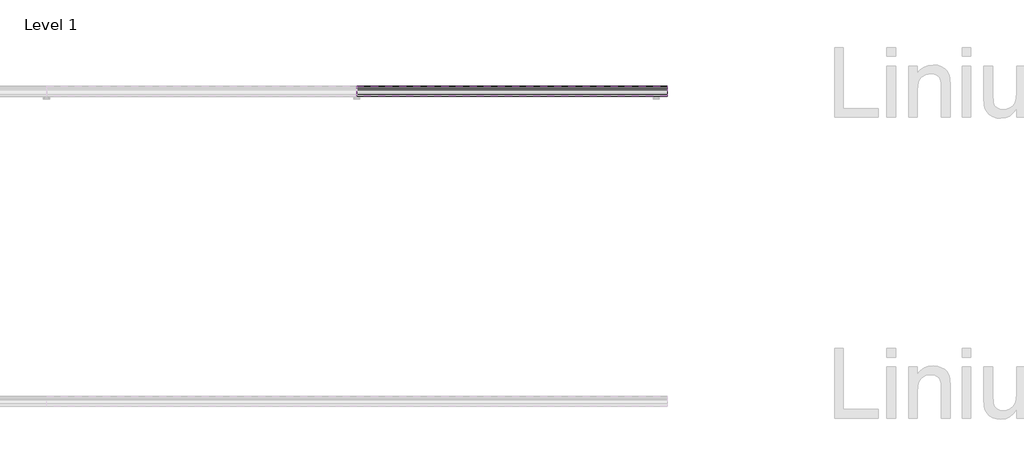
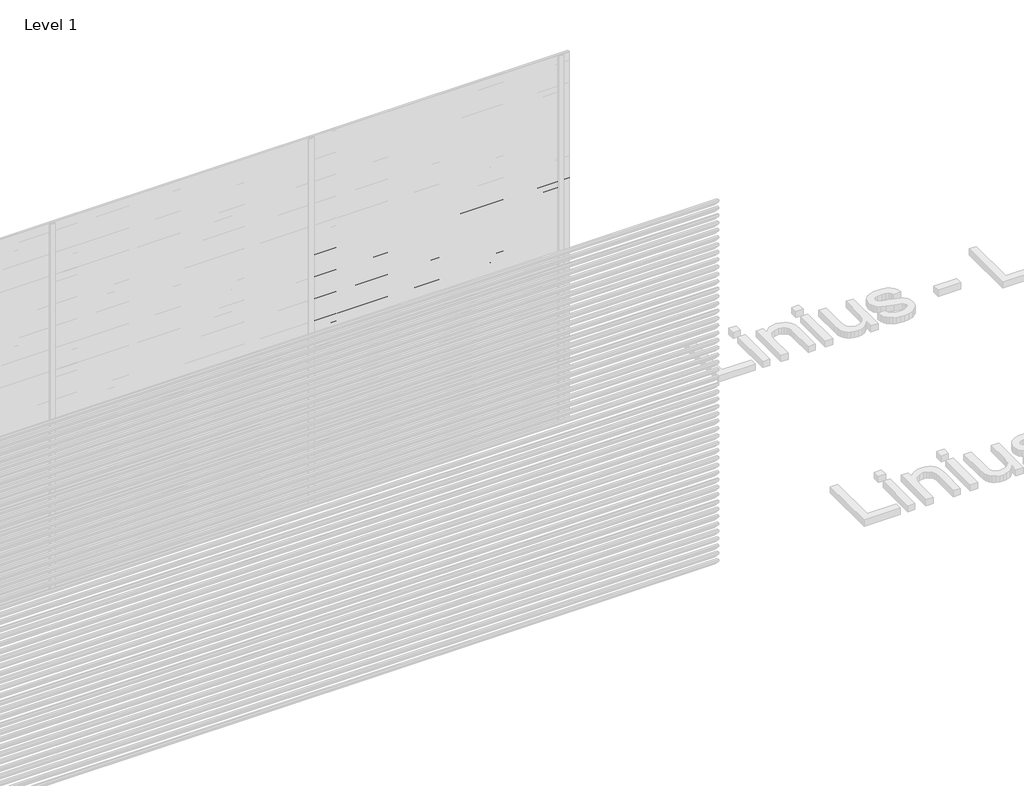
# One storey, part 105 of 153: 33 proxies.
"""IFC4 building model written with IfcOpenShell, lengths in millimetres."""

from ifc_helpers import new_model, si_unit, point, frame, frame_2d, origin, place, context, project, spatial, polyline, circle_curve, trimmed, segment, composite_curve, outline, extrude, element, save

model = new_model("IFC4")

# Units and contexts
model_context = context("Model", 3, world=origin())
ifc_project = project(units=[si_unit("LENGTHUNIT", "METRE", prefix="MILLI")], contexts=[model_context])

# Site, building, storey
site = spatial("IfcSite", under=ifc_project)
building = spatial("IfcBuilding", under=site)
storey = spatial("IfcBuildingStorey", under=building, Name="Level 1", Elevation=0.0)

# Proxies
placement = place(None, origin())
element("IfcBuildingElementProxy", 1, Name="Wall Sweeps", at=placement, inside=storey, context=model_context, shape_type="SweptSolid", body=[
    extrude(outline(composite_curve([segment(polyline([(43985.0540136, 2100.0), (43999.874191, 2098.7034025), (44049.0540136, 2045.0102749), (44049.0540136, 2033.6108187)]), True, "CONTINUOUS"), segment(trimmed(circle_curve(frame_2d((44045.7883652, 2033.897153)), 3.2781774), [point((44049.0540136, 2033.6108187))], [point((44046.4639442, 2030.6893438))], False, "CARTESIAN"), True, "CONTINUOUS"), segment(polyline([(44046.4639442, 2030.6893438), (44034.1895723, 2031.6282758), (43985.0540136, 2085.2730773), (43985.0540136, 2100.0)]), True, "CONTINUOUS")], self_intersect=False), holes=[composite_curve([segment(polyline([(43999.1621773, 2097.2599659), (43986.5540136, 2098.3630372), (43986.5540136, 2085.856213), (44034.8952036, 2033.0786805), (44046.3312542, 2032.2038762)]), True, "CONTINUOUS"), segment(trimmed(circle_curve(frame_2d((44045.7883652, 2033.897153)), 1.7781774), [point((44046.3312542, 2032.2038762))], [point((44047.5540136, 2033.6864389))], True, "CARTESIAN"), True, "CONTINUOUS"), segment(polyline([(44047.5540136, 2033.6864389), (44047.5540136, 2044.4271392), (43999.1621773, 2097.2599659)]), True, "CONTINUOUS")], self_intersect=False)]), frame((48966.6208096, 0.0, 0.0), z_axis=(1.0, 0.0, 0.0), x_axis=(0.0, 1.0, 0.0)), (0.0, 0.0, 1.0), 2000.0000001),
])
element("IfcBuildingElementProxy", 2, Name="Wall Sweeps", at=placement, inside=storey, context=model_context, shape_type="SweptSolid", body=[
    extrude(outline(composite_curve([segment(polyline([(43985.0540136, 2040.0), (43999.874191, 2038.7034025), (44049.0540136, 1985.0102749), (44049.0540136, 1973.6108187)]), True, "CONTINUOUS"), segment(trimmed(circle_curve(frame_2d((44045.7883652, 1973.897153)), 3.2781774), [point((44049.0540136, 1973.6108187))], [point((44046.4639442, 1970.6893438))], False, "CARTESIAN"), True, "CONTINUOUS"), segment(polyline([(44046.4639442, 1970.6893438), (44034.1895723, 1971.6282758), (43985.0540136, 2025.2730773), (43985.0540136, 2040.0)]), True, "CONTINUOUS")], self_intersect=False), holes=[composite_curve([segment(polyline([(43999.1621773, 2037.2599659), (43986.5540136, 2038.3630372), (43986.5540136, 2025.856213), (44034.8952036, 1973.0786805), (44046.3312542, 1972.2038762)]), True, "CONTINUOUS"), segment(trimmed(circle_curve(frame_2d((44045.7883652, 1973.897153)), 1.7781774), [point((44046.3312542, 1972.2038762))], [point((44047.5540136, 1973.6864389))], True, "CARTESIAN"), True, "CONTINUOUS"), segment(polyline([(44047.5540136, 1973.6864389), (44047.5540136, 1984.4271392), (43999.1621773, 2037.2599659)]), True, "CONTINUOUS")], self_intersect=False)]), frame((48966.6208096, 0.0, 0.0), z_axis=(1.0, 0.0, 0.0), x_axis=(0.0, 1.0, 0.0)), (0.0, 0.0, 1.0), 2000.0000001),
])
element("IfcBuildingElementProxy", 3, Name="Wall Sweeps", at=placement, inside=storey, context=model_context, shape_type="SweptSolid", body=[
    extrude(outline(composite_curve([segment(polyline([(43985.0540136, 1980.0), (43999.874191, 1978.7034025), (44049.0540136, 1925.0102749), (44049.0540136, 1913.6108187)]), True, "CONTINUOUS"), segment(trimmed(circle_curve(frame_2d((44045.7883652, 1913.897153)), 3.2781774), [point((44049.0540136, 1913.6108187))], [point((44046.4639442, 1910.6893438))], False, "CARTESIAN"), True, "CONTINUOUS"), segment(polyline([(44046.4639442, 1910.6893438), (44034.1895723, 1911.6282758), (43985.0540136, 1965.2730773), (43985.0540136, 1980.0)]), True, "CONTINUOUS")], self_intersect=False), holes=[composite_curve([segment(polyline([(43999.1621773, 1977.2599659), (43986.5540136, 1978.3630372), (43986.5540136, 1965.856213), (44034.8952036, 1913.0786805), (44046.3312542, 1912.2038762)]), True, "CONTINUOUS"), segment(trimmed(circle_curve(frame_2d((44045.7883652, 1913.897153)), 1.7781774), [point((44046.3312542, 1912.2038762))], [point((44047.5540136, 1913.6864389))], True, "CARTESIAN"), True, "CONTINUOUS"), segment(polyline([(44047.5540136, 1913.6864389), (44047.5540136, 1924.4271392), (43999.1621773, 1977.2599659)]), True, "CONTINUOUS")], self_intersect=False)]), frame((48966.6208096, 0.0, 0.0), z_axis=(1.0, 0.0, 0.0), x_axis=(0.0, 1.0, 0.0)), (0.0, 0.0, 1.0), 2000.0000001),
])
element("IfcBuildingElementProxy", 4, Name="Wall Sweeps", at=placement, inside=storey, context=model_context, shape_type="SweptSolid", body=[
    extrude(outline(composite_curve([segment(polyline([(43985.0540136, 1920.0), (43999.874191, 1918.7034025), (44049.0540136, 1865.0102749), (44049.0540136, 1853.6108187)]), True, "CONTINUOUS"), segment(trimmed(circle_curve(frame_2d((44045.7883652, 1853.897153)), 3.2781774), [point((44049.0540136, 1853.6108187))], [point((44046.4639442, 1850.6893438))], False, "CARTESIAN"), True, "CONTINUOUS"), segment(polyline([(44046.4639442, 1850.6893438), (44034.1895723, 1851.6282758), (43985.0540136, 1905.2730773), (43985.0540136, 1920.0)]), True, "CONTINUOUS")], self_intersect=False), holes=[composite_curve([segment(polyline([(43999.1621773, 1917.2599659), (43986.5540136, 1918.3630372), (43986.5540136, 1905.856213), (44034.8952036, 1853.0786805), (44046.3312542, 1852.2038762)]), True, "CONTINUOUS"), segment(trimmed(circle_curve(frame_2d((44045.7883652, 1853.897153)), 1.7781774), [point((44046.3312542, 1852.2038762))], [point((44047.5540136, 1853.6864389))], True, "CARTESIAN"), True, "CONTINUOUS"), segment(polyline([(44047.5540136, 1853.6864389), (44047.5540136, 1864.4271392), (43999.1621773, 1917.2599659)]), True, "CONTINUOUS")], self_intersect=False)]), frame((48966.6208096, 0.0, 0.0), z_axis=(1.0, 0.0, 0.0), x_axis=(0.0, 1.0, 0.0)), (0.0, 0.0, 1.0), 2000.0000001),
])
element("IfcBuildingElementProxy", 5, Name="Wall Sweeps", at=placement, inside=storey, context=model_context, shape_type="SweptSolid", body=[
    extrude(outline(composite_curve([segment(polyline([(43985.0540136, 1860.0), (43999.874191, 1858.7034025), (44049.0540136, 1805.0102749), (44049.0540136, 1793.6108187)]), True, "CONTINUOUS"), segment(trimmed(circle_curve(frame_2d((44045.7883652, 1793.897153)), 3.2781774), [point((44049.0540136, 1793.6108187))], [point((44046.4639442, 1790.6893438))], False, "CARTESIAN"), True, "CONTINUOUS"), segment(polyline([(44046.4639442, 1790.6893438), (44034.1895723, 1791.6282758), (43985.0540136, 1845.2730773), (43985.0540136, 1860.0)]), True, "CONTINUOUS")], self_intersect=False), holes=[composite_curve([segment(polyline([(43999.1621773, 1857.2599659), (43986.5540136, 1858.3630372), (43986.5540136, 1845.856213), (44034.8952036, 1793.0786805), (44046.3312542, 1792.2038762)]), True, "CONTINUOUS"), segment(trimmed(circle_curve(frame_2d((44045.7883652, 1793.897153)), 1.7781774), [point((44046.3312542, 1792.2038762))], [point((44047.5540136, 1793.6864389))], True, "CARTESIAN"), True, "CONTINUOUS"), segment(polyline([(44047.5540136, 1793.6864389), (44047.5540136, 1804.4271392), (43999.1621773, 1857.2599659)]), True, "CONTINUOUS")], self_intersect=False)]), frame((48966.6208096, 0.0, 0.0), z_axis=(1.0, 0.0, 0.0), x_axis=(0.0, 1.0, 0.0)), (0.0, 0.0, 1.0), 2000.0000001),
])
element("IfcBuildingElementProxy", 6, Name="Wall Sweeps", at=placement, inside=storey, context=model_context, shape_type="SweptSolid", body=[
    extrude(outline(composite_curve([segment(polyline([(43985.0540136, 1800.0), (43999.874191, 1798.7034025), (44049.0540136, 1745.0102749), (44049.0540136, 1733.6108187)]), True, "CONTINUOUS"), segment(trimmed(circle_curve(frame_2d((44045.7883652, 1733.897153)), 3.2781774), [point((44049.0540136, 1733.6108187))], [point((44046.4639442, 1730.6893438))], False, "CARTESIAN"), True, "CONTINUOUS"), segment(polyline([(44046.4639442, 1730.6893438), (44034.1895723, 1731.6282758), (43985.0540136, 1785.2730773), (43985.0540136, 1800.0)]), True, "CONTINUOUS")], self_intersect=False), holes=[composite_curve([segment(polyline([(43999.1621773, 1797.2599659), (43986.5540136, 1798.3630372), (43986.5540136, 1785.856213), (44034.8952036, 1733.0786805), (44046.3312542, 1732.2038762)]), True, "CONTINUOUS"), segment(trimmed(circle_curve(frame_2d((44045.7883652, 1733.897153)), 1.7781774), [point((44046.3312542, 1732.2038762))], [point((44047.5540136, 1733.6864389))], True, "CARTESIAN"), True, "CONTINUOUS"), segment(polyline([(44047.5540136, 1733.6864389), (44047.5540136, 1744.4271392), (43999.1621773, 1797.2599659)]), True, "CONTINUOUS")], self_intersect=False)]), frame((48966.6208096, 0.0, 0.0), z_axis=(1.0, 0.0, 0.0), x_axis=(0.0, 1.0, 0.0)), (0.0, 0.0, 1.0), 2000.0000001),
])
element("IfcBuildingElementProxy", 7, Name="Wall Sweeps", at=placement, inside=storey, context=model_context, shape_type="SweptSolid", body=[
    extrude(outline(composite_curve([segment(polyline([(43985.0540136, 1740.0), (43999.874191, 1738.7034025), (44049.0540136, 1685.0102749), (44049.0540136, 1673.6108187)]), True, "CONTINUOUS"), segment(trimmed(circle_curve(frame_2d((44045.7883652, 1673.897153)), 3.2781774), [point((44049.0540136, 1673.6108187))], [point((44046.4639442, 1670.6893438))], False, "CARTESIAN"), True, "CONTINUOUS"), segment(polyline([(44046.4639442, 1670.6893438), (44034.1895723, 1671.6282758), (43985.0540136, 1725.2730773), (43985.0540136, 1740.0)]), True, "CONTINUOUS")], self_intersect=False), holes=[composite_curve([segment(polyline([(43999.1621773, 1737.2599659), (43986.5540136, 1738.3630372), (43986.5540136, 1725.856213), (44034.8952036, 1673.0786805), (44046.3312542, 1672.2038762)]), True, "CONTINUOUS"), segment(trimmed(circle_curve(frame_2d((44045.7883652, 1673.897153)), 1.7781774), [point((44046.3312542, 1672.2038762))], [point((44047.5540136, 1673.6864389))], True, "CARTESIAN"), True, "CONTINUOUS"), segment(polyline([(44047.5540136, 1673.6864389), (44047.5540136, 1684.4271392), (43999.1621773, 1737.2599659)]), True, "CONTINUOUS")], self_intersect=False)]), frame((48966.6208096, 0.0, 0.0), z_axis=(1.0, 0.0, 0.0), x_axis=(0.0, 1.0, 0.0)), (0.0, 0.0, 1.0), 2000.0000001),
])
element("IfcBuildingElementProxy", 8, Name="Wall Sweeps", at=placement, inside=storey, context=model_context, shape_type="SweptSolid", body=[
    extrude(outline(composite_curve([segment(polyline([(43985.0540136, 1680.0), (43999.874191, 1678.7034025), (44049.0540136, 1625.0102749), (44049.0540136, 1613.6108187)]), True, "CONTINUOUS"), segment(trimmed(circle_curve(frame_2d((44045.7883652, 1613.897153)), 3.2781774), [point((44049.0540136, 1613.6108187))], [point((44046.4639442, 1610.6893438))], False, "CARTESIAN"), True, "CONTINUOUS"), segment(polyline([(44046.4639442, 1610.6893438), (44034.1895723, 1611.6282758), (43985.0540136, 1665.2730773), (43985.0540136, 1680.0)]), True, "CONTINUOUS")], self_intersect=False), holes=[composite_curve([segment(polyline([(43999.1621773, 1677.2599659), (43986.5540136, 1678.3630372), (43986.5540136, 1665.856213), (44034.8952036, 1613.0786805), (44046.3312542, 1612.2038762)]), True, "CONTINUOUS"), segment(trimmed(circle_curve(frame_2d((44045.7883652, 1613.897153)), 1.7781774), [point((44046.3312542, 1612.2038762))], [point((44047.5540136, 1613.6864389))], True, "CARTESIAN"), True, "CONTINUOUS"), segment(polyline([(44047.5540136, 1613.6864389), (44047.5540136, 1624.4271392), (43999.1621773, 1677.2599659)]), True, "CONTINUOUS")], self_intersect=False)]), frame((48966.6208096, 0.0, 0.0), z_axis=(1.0, 0.0, 0.0), x_axis=(0.0, 1.0, 0.0)), (0.0, 0.0, 1.0), 2000.0000001),
])
element("IfcBuildingElementProxy", 9, Name="Wall Sweeps", at=placement, inside=storey, context=model_context, shape_type="SweptSolid", body=[
    extrude(outline(composite_curve([segment(polyline([(43985.0540136, 1620.0), (43999.874191, 1618.7034025), (44049.0540136, 1565.0102749), (44049.0540136, 1553.6108187)]), True, "CONTINUOUS"), segment(trimmed(circle_curve(frame_2d((44045.7883652, 1553.897153)), 3.2781774), [point((44049.0540136, 1553.6108187))], [point((44046.4639442, 1550.6893438))], False, "CARTESIAN"), True, "CONTINUOUS"), segment(polyline([(44046.4639442, 1550.6893438), (44034.1895723, 1551.6282758), (43985.0540136, 1605.2730773), (43985.0540136, 1620.0)]), True, "CONTINUOUS")], self_intersect=False), holes=[composite_curve([segment(polyline([(43999.1621773, 1617.2599659), (43986.5540136, 1618.3630372), (43986.5540136, 1605.856213), (44034.8952036, 1553.0786805), (44046.3312542, 1552.2038762)]), True, "CONTINUOUS"), segment(trimmed(circle_curve(frame_2d((44045.7883652, 1553.897153)), 1.7781774), [point((44046.3312542, 1552.2038762))], [point((44047.5540136, 1553.6864389))], True, "CARTESIAN"), True, "CONTINUOUS"), segment(polyline([(44047.5540136, 1553.6864389), (44047.5540136, 1564.4271392), (43999.1621773, 1617.2599659)]), True, "CONTINUOUS")], self_intersect=False)]), frame((48966.6208096, 0.0, 0.0), z_axis=(1.0, 0.0, 0.0), x_axis=(0.0, 1.0, 0.0)), (0.0, 0.0, 1.0), 2000.0000001),
])
element("IfcBuildingElementProxy", 10, Name="Wall Sweeps", at=placement, inside=storey, context=model_context, shape_type="SweptSolid", body=[
    extrude(outline(composite_curve([segment(polyline([(43985.0540136, 1560.0), (43999.874191, 1558.7034025), (44049.0540136, 1505.0102749), (44049.0540136, 1493.6108187)]), True, "CONTINUOUS"), segment(trimmed(circle_curve(frame_2d((44045.7883652, 1493.897153)), 3.2781774), [point((44049.0540136, 1493.6108187))], [point((44046.4639442, 1490.6893438))], False, "CARTESIAN"), True, "CONTINUOUS"), segment(polyline([(44046.4639442, 1490.6893438), (44034.1895723, 1491.6282758), (43985.0540136, 1545.2730773), (43985.0540136, 1560.0)]), True, "CONTINUOUS")], self_intersect=False), holes=[composite_curve([segment(polyline([(43999.1621773, 1557.2599659), (43986.5540136, 1558.3630372), (43986.5540136, 1545.856213), (44034.8952036, 1493.0786805), (44046.3312542, 1492.2038762)]), True, "CONTINUOUS"), segment(trimmed(circle_curve(frame_2d((44045.7883652, 1493.897153)), 1.7781774), [point((44046.3312542, 1492.2038762))], [point((44047.5540136, 1493.6864389))], True, "CARTESIAN"), True, "CONTINUOUS"), segment(polyline([(44047.5540136, 1493.6864389), (44047.5540136, 1504.4271392), (43999.1621773, 1557.2599659)]), True, "CONTINUOUS")], self_intersect=False)]), frame((48966.6208096, 0.0, 0.0), z_axis=(1.0, 0.0, 0.0), x_axis=(0.0, 1.0, 0.0)), (0.0, 0.0, 1.0), 2000.0000001),
])
element("IfcBuildingElementProxy", 11, Name="Wall Sweeps", at=placement, inside=storey, context=model_context, shape_type="SweptSolid", body=[
    extrude(outline(composite_curve([segment(polyline([(43985.0540136, 1500.0), (43999.874191, 1498.7034025), (44049.0540136, 1445.0102749), (44049.0540136, 1433.6108187)]), True, "CONTINUOUS"), segment(trimmed(circle_curve(frame_2d((44045.7883652, 1433.897153)), 3.2781774), [point((44049.0540136, 1433.6108187))], [point((44046.4639442, 1430.6893438))], False, "CARTESIAN"), True, "CONTINUOUS"), segment(polyline([(44046.4639442, 1430.6893438), (44034.1895723, 1431.6282758), (43985.0540136, 1485.2730773), (43985.0540136, 1500.0)]), True, "CONTINUOUS")], self_intersect=False), holes=[composite_curve([segment(polyline([(43999.1621773, 1497.2599659), (43986.5540136, 1498.3630372), (43986.5540136, 1485.856213), (44034.8952036, 1433.0786805), (44046.3312542, 1432.2038762)]), True, "CONTINUOUS"), segment(trimmed(circle_curve(frame_2d((44045.7883652, 1433.897153)), 1.7781774), [point((44046.3312542, 1432.2038762))], [point((44047.5540136, 1433.6864389))], True, "CARTESIAN"), True, "CONTINUOUS"), segment(polyline([(44047.5540136, 1433.6864389), (44047.5540136, 1444.4271392), (43999.1621773, 1497.2599659)]), True, "CONTINUOUS")], self_intersect=False)]), frame((48966.6208096, 0.0, 0.0), z_axis=(1.0, 0.0, 0.0), x_axis=(0.0, 1.0, 0.0)), (0.0, 0.0, 1.0), 2000.0000001),
])
element("IfcBuildingElementProxy", 12, Name="Wall Sweeps", at=placement, inside=storey, context=model_context, shape_type="SweptSolid", body=[
    extrude(outline(composite_curve([segment(polyline([(43985.0540136, 1440.0), (43999.874191, 1438.7034025), (44049.0540136, 1385.0102749), (44049.0540136, 1373.6108187)]), True, "CONTINUOUS"), segment(trimmed(circle_curve(frame_2d((44045.7883652, 1373.897153)), 3.2781774), [point((44049.0540136, 1373.6108187))], [point((44046.4639442, 1370.6893438))], False, "CARTESIAN"), True, "CONTINUOUS"), segment(polyline([(44046.4639442, 1370.6893438), (44034.1895723, 1371.6282758), (43985.0540136, 1425.2730773), (43985.0540136, 1440.0)]), True, "CONTINUOUS")], self_intersect=False), holes=[composite_curve([segment(polyline([(43999.1621773, 1437.2599659), (43986.5540136, 1438.3630372), (43986.5540136, 1425.856213), (44034.8952036, 1373.0786805), (44046.3312542, 1372.2038762)]), True, "CONTINUOUS"), segment(trimmed(circle_curve(frame_2d((44045.7883652, 1373.897153)), 1.7781774), [point((44046.3312542, 1372.2038762))], [point((44047.5540136, 1373.6864389))], True, "CARTESIAN"), True, "CONTINUOUS"), segment(polyline([(44047.5540136, 1373.6864389), (44047.5540136, 1384.4271392), (43999.1621773, 1437.2599659)]), True, "CONTINUOUS")], self_intersect=False)]), frame((48966.6208096, 0.0, 0.0), z_axis=(1.0, 0.0, 0.0), x_axis=(0.0, 1.0, 0.0)), (0.0, 0.0, 1.0), 2000.0000001),
])
element("IfcBuildingElementProxy", 13, Name="Wall Sweeps", at=placement, inside=storey, context=model_context, shape_type="SweptSolid", body=[
    extrude(outline(composite_curve([segment(polyline([(43985.0540136, 1380.0), (43999.874191, 1378.7034025), (44049.0540136, 1325.0102749), (44049.0540136, 1313.6108187)]), True, "CONTINUOUS"), segment(trimmed(circle_curve(frame_2d((44045.7883652, 1313.897153)), 3.2781774), [point((44049.0540136, 1313.6108187))], [point((44046.4639442, 1310.6893438))], False, "CARTESIAN"), True, "CONTINUOUS"), segment(polyline([(44046.4639442, 1310.6893438), (44034.1895723, 1311.6282758), (43985.0540136, 1365.2730773), (43985.0540136, 1380.0)]), True, "CONTINUOUS")], self_intersect=False), holes=[composite_curve([segment(polyline([(43999.1621773, 1377.2599659), (43986.5540136, 1378.3630372), (43986.5540136, 1365.856213), (44034.8952036, 1313.0786805), (44046.3312542, 1312.2038762)]), True, "CONTINUOUS"), segment(trimmed(circle_curve(frame_2d((44045.7883652, 1313.897153)), 1.7781774), [point((44046.3312542, 1312.2038762))], [point((44047.5540136, 1313.6864389))], True, "CARTESIAN"), True, "CONTINUOUS"), segment(polyline([(44047.5540136, 1313.6864389), (44047.5540136, 1324.4271392), (43999.1621773, 1377.2599659)]), True, "CONTINUOUS")], self_intersect=False)]), frame((48966.6208096, 0.0, 0.0), z_axis=(1.0, 0.0, 0.0), x_axis=(0.0, 1.0, 0.0)), (0.0, 0.0, 1.0), 2000.0000001),
])
element("IfcBuildingElementProxy", 14, Name="Wall Sweeps", at=placement, inside=storey, context=model_context, shape_type="SweptSolid", body=[
    extrude(outline(composite_curve([segment(polyline([(43985.0540136, 1320.0), (43999.874191, 1318.7034025), (44049.0540136, 1265.0102749), (44049.0540136, 1253.6108187)]), True, "CONTINUOUS"), segment(trimmed(circle_curve(frame_2d((44045.7883652, 1253.897153)), 3.2781774), [point((44049.0540136, 1253.6108187))], [point((44046.4639442, 1250.6893438))], False, "CARTESIAN"), True, "CONTINUOUS"), segment(polyline([(44046.4639442, 1250.6893438), (44034.1895723, 1251.6282758), (43985.0540136, 1305.2730773), (43985.0540136, 1320.0)]), True, "CONTINUOUS")], self_intersect=False), holes=[composite_curve([segment(polyline([(43999.1621773, 1317.2599659), (43986.5540136, 1318.3630372), (43986.5540136, 1305.856213), (44034.8952036, 1253.0786805), (44046.3312542, 1252.2038762)]), True, "CONTINUOUS"), segment(trimmed(circle_curve(frame_2d((44045.7883652, 1253.897153)), 1.7781774), [point((44046.3312542, 1252.2038762))], [point((44047.5540136, 1253.6864389))], True, "CARTESIAN"), True, "CONTINUOUS"), segment(polyline([(44047.5540136, 1253.6864389), (44047.5540136, 1264.4271392), (43999.1621773, 1317.2599659)]), True, "CONTINUOUS")], self_intersect=False)]), frame((48966.6208096, 0.0, 0.0), z_axis=(1.0, 0.0, 0.0), x_axis=(0.0, 1.0, 0.0)), (0.0, 0.0, 1.0), 2000.0000001),
])
element("IfcBuildingElementProxy", 15, Name="Wall Sweeps", at=placement, inside=storey, context=model_context, shape_type="SweptSolid", body=[
    extrude(outline(composite_curve([segment(polyline([(43985.0540136, 1260.0), (43999.874191, 1258.7034025), (44049.0540136, 1205.0102749), (44049.0540136, 1193.6108187)]), True, "CONTINUOUS"), segment(trimmed(circle_curve(frame_2d((44045.7883652, 1193.897153)), 3.2781774), [point((44049.0540136, 1193.6108187))], [point((44046.4639442, 1190.6893438))], False, "CARTESIAN"), True, "CONTINUOUS"), segment(polyline([(44046.4639442, 1190.6893438), (44034.1895723, 1191.6282758), (43985.0540136, 1245.2730773), (43985.0540136, 1260.0)]), True, "CONTINUOUS")], self_intersect=False), holes=[composite_curve([segment(polyline([(43999.1621773, 1257.2599659), (43986.5540136, 1258.3630372), (43986.5540136, 1245.856213), (44034.8952036, 1193.0786805), (44046.3312542, 1192.2038762)]), True, "CONTINUOUS"), segment(trimmed(circle_curve(frame_2d((44045.7883652, 1193.897153)), 1.7781774), [point((44046.3312542, 1192.2038762))], [point((44047.5540136, 1193.6864389))], True, "CARTESIAN"), True, "CONTINUOUS"), segment(polyline([(44047.5540136, 1193.6864389), (44047.5540136, 1204.4271392), (43999.1621773, 1257.2599659)]), True, "CONTINUOUS")], self_intersect=False)]), frame((48966.6208096, 0.0, 0.0), z_axis=(1.0, 0.0, 0.0), x_axis=(0.0, 1.0, 0.0)), (0.0, 0.0, 1.0), 2000.0000001),
])
element("IfcBuildingElementProxy", 16, Name="Wall Sweeps", at=placement, inside=storey, context=model_context, shape_type="SweptSolid", body=[
    extrude(outline(composite_curve([segment(polyline([(43985.0540136, 1200.0), (43999.874191, 1198.7034025), (44049.0540136, 1145.0102749), (44049.0540136, 1133.6108187)]), True, "CONTINUOUS"), segment(trimmed(circle_curve(frame_2d((44045.7883652, 1133.897153)), 3.2781774), [point((44049.0540136, 1133.6108187))], [point((44046.4639442, 1130.6893438))], False, "CARTESIAN"), True, "CONTINUOUS"), segment(polyline([(44046.4639442, 1130.6893438), (44034.1895723, 1131.6282758), (43985.0540136, 1185.2730773), (43985.0540136, 1200.0)]), True, "CONTINUOUS")], self_intersect=False), holes=[composite_curve([segment(polyline([(43999.1621773, 1197.2599659), (43986.5540136, 1198.3630372), (43986.5540136, 1185.856213), (44034.8952036, 1133.0786805), (44046.3312542, 1132.2038762)]), True, "CONTINUOUS"), segment(trimmed(circle_curve(frame_2d((44045.7883652, 1133.897153)), 1.7781774), [point((44046.3312542, 1132.2038762))], [point((44047.5540136, 1133.6864389))], True, "CARTESIAN"), True, "CONTINUOUS"), segment(polyline([(44047.5540136, 1133.6864389), (44047.5540136, 1144.4271392), (43999.1621773, 1197.2599659)]), True, "CONTINUOUS")], self_intersect=False)]), frame((48966.6208096, 0.0, 0.0), z_axis=(1.0, 0.0, 0.0), x_axis=(0.0, 1.0, 0.0)), (0.0, 0.0, 1.0), 2000.0000001),
])
element("IfcBuildingElementProxy", 17, Name="Wall Sweeps", at=placement, inside=storey, context=model_context, shape_type="SweptSolid", body=[
    extrude(outline(composite_curve([segment(polyline([(43985.0540136, 1140.0), (43999.874191, 1138.7034025), (44049.0540136, 1085.0102749), (44049.0540136, 1073.6108187)]), True, "CONTINUOUS"), segment(trimmed(circle_curve(frame_2d((44045.7883652, 1073.897153)), 3.2781774), [point((44049.0540136, 1073.6108187))], [point((44046.4639442, 1070.6893438))], False, "CARTESIAN"), True, "CONTINUOUS"), segment(polyline([(44046.4639442, 1070.6893438), (44034.1895723, 1071.6282758), (43985.0540136, 1125.2730773), (43985.0540136, 1140.0)]), True, "CONTINUOUS")], self_intersect=False), holes=[composite_curve([segment(polyline([(43999.1621773, 1137.2599659), (43986.5540136, 1138.3630372), (43986.5540136, 1125.856213), (44034.8952036, 1073.0786805), (44046.3312542, 1072.2038762)]), True, "CONTINUOUS"), segment(trimmed(circle_curve(frame_2d((44045.7883652, 1073.897153)), 1.7781774), [point((44046.3312542, 1072.2038762))], [point((44047.5540136, 1073.6864389))], True, "CARTESIAN"), True, "CONTINUOUS"), segment(polyline([(44047.5540136, 1073.6864389), (44047.5540136, 1084.4271392), (43999.1621773, 1137.2599659)]), True, "CONTINUOUS")], self_intersect=False)]), frame((48966.6208096, 0.0, 0.0), z_axis=(1.0, 0.0, 0.0), x_axis=(0.0, 1.0, 0.0)), (0.0, 0.0, 1.0), 2000.0000001),
])
element("IfcBuildingElementProxy", 18, Name="Wall Sweeps", at=placement, inside=storey, context=model_context, shape_type="SweptSolid", body=[
    extrude(outline(composite_curve([segment(polyline([(43985.0540136, 1080.0), (43999.874191, 1078.7034025), (44049.0540136, 1025.0102749), (44049.0540136, 1013.6108187)]), True, "CONTINUOUS"), segment(trimmed(circle_curve(frame_2d((44045.7883652, 1013.897153)), 3.2781774), [point((44049.0540136, 1013.6108187))], [point((44046.4639442, 1010.6893438))], False, "CARTESIAN"), True, "CONTINUOUS"), segment(polyline([(44046.4639442, 1010.6893438), (44034.1895723, 1011.6282758), (43985.0540136, 1065.2730773), (43985.0540136, 1080.0)]), True, "CONTINUOUS")], self_intersect=False), holes=[composite_curve([segment(polyline([(43999.1621773, 1077.2599659), (43986.5540136, 1078.3630372), (43986.5540136, 1065.856213), (44034.8952036, 1013.0786805), (44046.3312542, 1012.2038762)]), True, "CONTINUOUS"), segment(trimmed(circle_curve(frame_2d((44045.7883652, 1013.897153)), 1.7781774), [point((44046.3312542, 1012.2038762))], [point((44047.5540136, 1013.6864389))], True, "CARTESIAN"), True, "CONTINUOUS"), segment(polyline([(44047.5540136, 1013.6864389), (44047.5540136, 1024.4271392), (43999.1621773, 1077.2599659)]), True, "CONTINUOUS")], self_intersect=False)]), frame((48966.6208096, 0.0, 0.0), z_axis=(1.0, 0.0, 0.0), x_axis=(0.0, 1.0, 0.0)), (0.0, 0.0, 1.0), 2000.0000001),
])
element("IfcBuildingElementProxy", 19, Name="Wall Sweeps", at=placement, inside=storey, context=model_context, shape_type="SweptSolid", body=[
    extrude(outline(composite_curve([segment(polyline([(43985.0540136, 1020.0), (43999.874191, 1018.7034025), (44049.0540136, 965.0102749), (44049.0540136, 953.6108187)]), True, "CONTINUOUS"), segment(trimmed(circle_curve(frame_2d((44045.7883652, 953.897153)), 3.2781774), [point((44049.0540136, 953.6108187))], [point((44046.4639442, 950.6893438))], False, "CARTESIAN"), True, "CONTINUOUS"), segment(polyline([(44046.4639442, 950.6893438), (44034.1895723, 951.6282758), (43985.0540136, 1005.2730773), (43985.0540136, 1020.0)]), True, "CONTINUOUS")], self_intersect=False), holes=[composite_curve([segment(polyline([(43999.1621773, 1017.2599659), (43986.5540136, 1018.3630372), (43986.5540136, 1005.856213), (44034.8952036, 953.0786805), (44046.3312542, 952.2038762)]), True, "CONTINUOUS"), segment(trimmed(circle_curve(frame_2d((44045.7883652, 953.897153)), 1.7781774), [point((44046.3312542, 952.2038762))], [point((44047.5540136, 953.6864389))], True, "CARTESIAN"), True, "CONTINUOUS"), segment(polyline([(44047.5540136, 953.6864389), (44047.5540136, 964.4271392), (43999.1621773, 1017.2599659)]), True, "CONTINUOUS")], self_intersect=False)]), frame((48966.6208096, 0.0, 0.0), z_axis=(1.0, 0.0, 0.0), x_axis=(0.0, 1.0, 0.0)), (0.0, 0.0, 1.0), 2000.0000001),
])
element("IfcBuildingElementProxy", 20, Name="Wall Sweeps", at=placement, inside=storey, context=model_context, shape_type="SweptSolid", body=[
    extrude(outline(composite_curve([segment(polyline([(43985.0540136, 960.0), (43999.874191, 958.7034025), (44049.0540136, 905.0102749), (44049.0540136, 893.6108187)]), True, "CONTINUOUS"), segment(trimmed(circle_curve(frame_2d((44045.7883652, 893.897153)), 3.2781774), [point((44049.0540136, 893.6108187))], [point((44046.4639442, 890.6893438))], False, "CARTESIAN"), True, "CONTINUOUS"), segment(polyline([(44046.4639442, 890.6893438), (44034.1895723, 891.6282758), (43985.0540136, 945.2730773), (43985.0540136, 960.0)]), True, "CONTINUOUS")], self_intersect=False), holes=[composite_curve([segment(polyline([(43999.1621773, 957.2599659), (43986.5540136, 958.3630372), (43986.5540136, 945.856213), (44034.8952036, 893.0786805), (44046.3312542, 892.2038762)]), True, "CONTINUOUS"), segment(trimmed(circle_curve(frame_2d((44045.7883652, 893.897153)), 1.7781774), [point((44046.3312542, 892.2038762))], [point((44047.5540136, 893.6864389))], True, "CARTESIAN"), True, "CONTINUOUS"), segment(polyline([(44047.5540136, 893.6864389), (44047.5540136, 904.4271392), (43999.1621773, 957.2599659)]), True, "CONTINUOUS")], self_intersect=False)]), frame((48966.6208096, 0.0, 0.0), z_axis=(1.0, 0.0, 0.0), x_axis=(0.0, 1.0, 0.0)), (0.0, 0.0, 1.0), 2000.0000001),
])
element("IfcBuildingElementProxy", 21, Name="Wall Sweeps", at=placement, inside=storey, context=model_context, shape_type="SweptSolid", body=[
    extrude(outline(composite_curve([segment(polyline([(43985.0540136, 900.0), (43999.874191, 898.7034025), (44049.0540136, 845.0102749), (44049.0540136, 833.6108187)]), True, "CONTINUOUS"), segment(trimmed(circle_curve(frame_2d((44045.7883652, 833.897153)), 3.2781774), [point((44049.0540136, 833.6108187))], [point((44046.4639442, 830.6893438))], False, "CARTESIAN"), True, "CONTINUOUS"), segment(polyline([(44046.4639442, 830.6893438), (44034.1895723, 831.6282758), (43985.0540136, 885.2730773), (43985.0540136, 900.0)]), True, "CONTINUOUS")], self_intersect=False), holes=[composite_curve([segment(polyline([(43999.1621773, 897.2599659), (43986.5540136, 898.3630372), (43986.5540136, 885.856213), (44034.8952036, 833.0786805), (44046.3312542, 832.2038762)]), True, "CONTINUOUS"), segment(trimmed(circle_curve(frame_2d((44045.7883652, 833.897153)), 1.7781774), [point((44046.3312542, 832.2038762))], [point((44047.5540136, 833.6864389))], True, "CARTESIAN"), True, "CONTINUOUS"), segment(polyline([(44047.5540136, 833.6864389), (44047.5540136, 844.4271392), (43999.1621773, 897.2599659)]), True, "CONTINUOUS")], self_intersect=False)]), frame((48966.6208096, 0.0, 0.0), z_axis=(1.0, 0.0, 0.0), x_axis=(0.0, 1.0, 0.0)), (0.0, 0.0, 1.0), 2000.0000001),
])
element("IfcBuildingElementProxy", 22, Name="Wall Sweeps", at=placement, inside=storey, context=model_context, shape_type="SweptSolid", body=[
    extrude(outline(composite_curve([segment(polyline([(43985.0540136, 840.0), (43999.874191, 838.7034025), (44049.0540136, 785.0102749), (44049.0540136, 773.6108187)]), True, "CONTINUOUS"), segment(trimmed(circle_curve(frame_2d((44045.7883652, 773.897153)), 3.2781774), [point((44049.0540136, 773.6108187))], [point((44046.4639442, 770.6893438))], False, "CARTESIAN"), True, "CONTINUOUS"), segment(polyline([(44046.4639442, 770.6893438), (44034.1895723, 771.6282758), (43985.0540136, 825.2730773), (43985.0540136, 840.0)]), True, "CONTINUOUS")], self_intersect=False), holes=[composite_curve([segment(polyline([(43999.1621773, 837.2599659), (43986.5540136, 838.3630372), (43986.5540136, 825.856213), (44034.8952036, 773.0786805), (44046.3312542, 772.2038762)]), True, "CONTINUOUS"), segment(trimmed(circle_curve(frame_2d((44045.7883652, 773.897153)), 1.7781774), [point((44046.3312542, 772.2038762))], [point((44047.5540136, 773.6864389))], True, "CARTESIAN"), True, "CONTINUOUS"), segment(polyline([(44047.5540136, 773.6864389), (44047.5540136, 784.4271392), (43999.1621773, 837.2599659)]), True, "CONTINUOUS")], self_intersect=False)]), frame((48966.6208096, 0.0, 0.0), z_axis=(1.0, 0.0, 0.0), x_axis=(0.0, 1.0, 0.0)), (0.0, 0.0, 1.0), 2000.0000001),
])
element("IfcBuildingElementProxy", 23, Name="Wall Sweeps", at=placement, inside=storey, context=model_context, shape_type="SweptSolid", body=[
    extrude(outline(composite_curve([segment(polyline([(43985.0540136, 780.0), (43999.874191, 778.7034025), (44049.0540136, 725.0102749), (44049.0540136, 713.6108187)]), True, "CONTINUOUS"), segment(trimmed(circle_curve(frame_2d((44045.7883652, 713.897153)), 3.2781774), [point((44049.0540136, 713.6108187))], [point((44046.4639442, 710.6893438))], False, "CARTESIAN"), True, "CONTINUOUS"), segment(polyline([(44046.4639442, 710.6893438), (44034.1895723, 711.6282758), (43985.0540136, 765.2730773), (43985.0540136, 780.0)]), True, "CONTINUOUS")], self_intersect=False), holes=[composite_curve([segment(polyline([(43999.1621773, 777.2599659), (43986.5540136, 778.3630372), (43986.5540136, 765.856213), (44034.8952036, 713.0786805), (44046.3312542, 712.2038762)]), True, "CONTINUOUS"), segment(trimmed(circle_curve(frame_2d((44045.7883652, 713.897153)), 1.7781774), [point((44046.3312542, 712.2038762))], [point((44047.5540136, 713.6864389))], True, "CARTESIAN"), True, "CONTINUOUS"), segment(polyline([(44047.5540136, 713.6864389), (44047.5540136, 724.4271392), (43999.1621773, 777.2599659)]), True, "CONTINUOUS")], self_intersect=False)]), frame((48966.6208096, 0.0, 0.0), z_axis=(1.0, 0.0, 0.0), x_axis=(0.0, 1.0, 0.0)), (0.0, 0.0, 1.0), 2000.0000001),
])
element("IfcBuildingElementProxy", 24, Name="Wall Sweeps", at=placement, inside=storey, context=model_context, shape_type="SweptSolid", body=[
    extrude(outline(composite_curve([segment(polyline([(43985.0540136, 720.0), (43999.874191, 718.7034025), (44049.0540136, 665.0102749), (44049.0540136, 653.6108187)]), True, "CONTINUOUS"), segment(trimmed(circle_curve(frame_2d((44045.7883652, 653.897153)), 3.2781774), [point((44049.0540136, 653.6108187))], [point((44046.4639442, 650.6893438))], False, "CARTESIAN"), True, "CONTINUOUS"), segment(polyline([(44046.4639442, 650.6893438), (44034.1895723, 651.6282758), (43985.0540136, 705.2730773), (43985.0540136, 720.0)]), True, "CONTINUOUS")], self_intersect=False), holes=[composite_curve([segment(polyline([(43999.1621773, 717.2599659), (43986.5540136, 718.3630372), (43986.5540136, 705.856213), (44034.8952036, 653.0786805), (44046.3312542, 652.2038762)]), True, "CONTINUOUS"), segment(trimmed(circle_curve(frame_2d((44045.7883652, 653.897153)), 1.7781774), [point((44046.3312542, 652.2038762))], [point((44047.5540136, 653.6864389))], True, "CARTESIAN"), True, "CONTINUOUS"), segment(polyline([(44047.5540136, 653.6864389), (44047.5540136, 664.4271392), (43999.1621773, 717.2599659)]), True, "CONTINUOUS")], self_intersect=False)]), frame((48966.6208096, 0.0, 0.0), z_axis=(1.0, 0.0, 0.0), x_axis=(0.0, 1.0, 0.0)), (0.0, 0.0, 1.0), 2000.0000001),
])
element("IfcBuildingElementProxy", 25, Name="Wall Sweeps", at=placement, inside=storey, context=model_context, shape_type="SweptSolid", body=[
    extrude(outline(composite_curve([segment(polyline([(43985.0540136, 660.0), (43999.874191, 658.7034025), (44049.0540136, 605.0102749), (44049.0540136, 593.6108187)]), True, "CONTINUOUS"), segment(trimmed(circle_curve(frame_2d((44045.7883652, 593.897153)), 3.2781774), [point((44049.0540136, 593.6108187))], [point((44046.4639442, 590.6893438))], False, "CARTESIAN"), True, "CONTINUOUS"), segment(polyline([(44046.4639442, 590.6893438), (44034.1895723, 591.6282758), (43985.0540136, 645.2730773), (43985.0540136, 660.0)]), True, "CONTINUOUS")], self_intersect=False), holes=[composite_curve([segment(polyline([(43999.1621773, 657.2599659), (43986.5540136, 658.3630372), (43986.5540136, 645.856213), (44034.8952036, 593.0786805), (44046.3312542, 592.2038762)]), True, "CONTINUOUS"), segment(trimmed(circle_curve(frame_2d((44045.7883652, 593.897153)), 1.7781774), [point((44046.3312542, 592.2038762))], [point((44047.5540136, 593.6864389))], True, "CARTESIAN"), True, "CONTINUOUS"), segment(polyline([(44047.5540136, 593.6864389), (44047.5540136, 604.4271392), (43999.1621773, 657.2599659)]), True, "CONTINUOUS")], self_intersect=False)]), frame((48966.6208096, 0.0, 0.0), z_axis=(1.0, 0.0, 0.0), x_axis=(0.0, 1.0, 0.0)), (0.0, 0.0, 1.0), 2000.0000001),
])
element("IfcBuildingElementProxy", 26, Name="Wall Sweeps", at=placement, inside=storey, context=model_context, shape_type="SweptSolid", body=[
    extrude(outline(composite_curve([segment(polyline([(43985.0540136, 600.0), (43999.874191, 598.7034025), (44049.0540136, 545.0102749), (44049.0540136, 533.6108187)]), True, "CONTINUOUS"), segment(trimmed(circle_curve(frame_2d((44045.7883652, 533.897153)), 3.2781774), [point((44049.0540136, 533.6108187))], [point((44046.4639442, 530.6893438))], False, "CARTESIAN"), True, "CONTINUOUS"), segment(polyline([(44046.4639442, 530.6893438), (44034.1895723, 531.6282758), (43985.0540136, 585.2730773), (43985.0540136, 600.0)]), True, "CONTINUOUS")], self_intersect=False), holes=[composite_curve([segment(polyline([(43999.1621773, 597.2599659), (43986.5540136, 598.3630372), (43986.5540136, 585.856213), (44034.8952036, 533.0786805), (44046.3312542, 532.2038762)]), True, "CONTINUOUS"), segment(trimmed(circle_curve(frame_2d((44045.7883652, 533.897153)), 1.7781774), [point((44046.3312542, 532.2038762))], [point((44047.5540136, 533.6864389))], True, "CARTESIAN"), True, "CONTINUOUS"), segment(polyline([(44047.5540136, 533.6864389), (44047.5540136, 544.4271392), (43999.1621773, 597.2599659)]), True, "CONTINUOUS")], self_intersect=False)]), frame((48966.6208096, 0.0, 0.0), z_axis=(1.0, 0.0, 0.0), x_axis=(0.0, 1.0, 0.0)), (0.0, 0.0, 1.0), 2000.0000001),
])
element("IfcBuildingElementProxy", 27, Name="Wall Sweeps", at=placement, inside=storey, context=model_context, shape_type="SweptSolid", body=[
    extrude(outline(composite_curve([segment(polyline([(43985.0540136, 540.0), (43999.874191, 538.7034025), (44049.0540136, 485.0102749), (44049.0540136, 473.6108187)]), True, "CONTINUOUS"), segment(trimmed(circle_curve(frame_2d((44045.7883652, 473.897153)), 3.2781774), [point((44049.0540136, 473.6108187))], [point((44046.4639442, 470.6893438))], False, "CARTESIAN"), True, "CONTINUOUS"), segment(polyline([(44046.4639442, 470.6893438), (44034.1895723, 471.6282758), (43985.0540136, 525.2730773), (43985.0540136, 540.0)]), True, "CONTINUOUS")], self_intersect=False), holes=[composite_curve([segment(polyline([(43999.1621773, 537.2599659), (43986.5540136, 538.3630372), (43986.5540136, 525.856213), (44034.8952036, 473.0786805), (44046.3312542, 472.2038762)]), True, "CONTINUOUS"), segment(trimmed(circle_curve(frame_2d((44045.7883652, 473.897153)), 1.7781774), [point((44046.3312542, 472.2038762))], [point((44047.5540136, 473.6864389))], True, "CARTESIAN"), True, "CONTINUOUS"), segment(polyline([(44047.5540136, 473.6864389), (44047.5540136, 484.4271392), (43999.1621773, 537.2599659)]), True, "CONTINUOUS")], self_intersect=False)]), frame((48966.6208096, 0.0, 0.0), z_axis=(1.0, 0.0, 0.0), x_axis=(0.0, 1.0, 0.0)), (0.0, 0.0, 1.0), 2000.0000001),
])
element("IfcBuildingElementProxy", 28, Name="Wall Sweeps", at=placement, inside=storey, context=model_context, shape_type="SweptSolid", body=[
    extrude(outline(composite_curve([segment(polyline([(43985.0540136, 480.0), (43999.874191, 478.7034025), (44049.0540136, 425.0102749), (44049.0540136, 413.6108187)]), True, "CONTINUOUS"), segment(trimmed(circle_curve(frame_2d((44045.7883652, 413.897153)), 3.2781774), [point((44049.0540136, 413.6108187))], [point((44046.4639442, 410.6893438))], False, "CARTESIAN"), True, "CONTINUOUS"), segment(polyline([(44046.4639442, 410.6893438), (44034.1895723, 411.6282758), (43985.0540136, 465.2730773), (43985.0540136, 480.0)]), True, "CONTINUOUS")], self_intersect=False), holes=[composite_curve([segment(polyline([(43999.1621773, 477.2599659), (43986.5540136, 478.3630372), (43986.5540136, 465.856213), (44034.8952036, 413.0786805), (44046.3312542, 412.2038762)]), True, "CONTINUOUS"), segment(trimmed(circle_curve(frame_2d((44045.7883652, 413.897153)), 1.7781774), [point((44046.3312542, 412.2038762))], [point((44047.5540136, 413.6864389))], True, "CARTESIAN"), True, "CONTINUOUS"), segment(polyline([(44047.5540136, 413.6864389), (44047.5540136, 424.4271392), (43999.1621773, 477.2599659)]), True, "CONTINUOUS")], self_intersect=False)]), frame((48966.6208096, 0.0, 0.0), z_axis=(1.0, 0.0, 0.0), x_axis=(0.0, 1.0, 0.0)), (0.0, 0.0, 1.0), 2000.0000001),
])
element("IfcBuildingElementProxy", 29, Name="Wall Sweeps", at=placement, inside=storey, context=model_context, shape_type="SweptSolid", body=[
    extrude(outline(composite_curve([segment(polyline([(43985.0540136, 420.0), (43999.874191, 418.7034025), (44049.0540136, 365.0102749), (44049.0540136, 353.6108187)]), True, "CONTINUOUS"), segment(trimmed(circle_curve(frame_2d((44045.7883652, 353.897153)), 3.2781774), [point((44049.0540136, 353.6108187))], [point((44046.4639442, 350.6893438))], False, "CARTESIAN"), True, "CONTINUOUS"), segment(polyline([(44046.4639442, 350.6893438), (44034.1895723, 351.6282758), (43985.0540136, 405.2730773), (43985.0540136, 420.0)]), True, "CONTINUOUS")], self_intersect=False), holes=[composite_curve([segment(polyline([(43999.1621773, 417.2599659), (43986.5540136, 418.3630372), (43986.5540136, 405.856213), (44034.8952036, 353.0786805), (44046.3312542, 352.2038762)]), True, "CONTINUOUS"), segment(trimmed(circle_curve(frame_2d((44045.7883652, 353.897153)), 1.7781774), [point((44046.3312542, 352.2038762))], [point((44047.5540136, 353.6864389))], True, "CARTESIAN"), True, "CONTINUOUS"), segment(polyline([(44047.5540136, 353.6864389), (44047.5540136, 364.4271392), (43999.1621773, 417.2599659)]), True, "CONTINUOUS")], self_intersect=False)]), frame((48966.6208096, 0.0, 0.0), z_axis=(1.0, 0.0, 0.0), x_axis=(0.0, 1.0, 0.0)), (0.0, 0.0, 1.0), 2000.0000001),
])
element("IfcBuildingElementProxy", 30, Name="Wall Sweeps", at=placement, inside=storey, context=model_context, shape_type="SweptSolid", body=[
    extrude(outline(composite_curve([segment(polyline([(43985.0540136, 360.0), (43999.874191, 358.7034025), (44049.0540136, 305.0102749), (44049.0540136, 293.6108187)]), True, "CONTINUOUS"), segment(trimmed(circle_curve(frame_2d((44045.7883652, 293.897153)), 3.2781774), [point((44049.0540136, 293.6108187))], [point((44046.4639442, 290.6893438))], False, "CARTESIAN"), True, "CONTINUOUS"), segment(polyline([(44046.4639442, 290.6893438), (44034.1895723, 291.6282758), (43985.0540136, 345.2730773), (43985.0540136, 360.0)]), True, "CONTINUOUS")], self_intersect=False), holes=[composite_curve([segment(polyline([(43999.1621773, 357.2599659), (43986.5540136, 358.3630372), (43986.5540136, 345.856213), (44034.8952036, 293.0786805), (44046.3312542, 292.2038762)]), True, "CONTINUOUS"), segment(trimmed(circle_curve(frame_2d((44045.7883652, 293.897153)), 1.7781774), [point((44046.3312542, 292.2038762))], [point((44047.5540136, 293.6864389))], True, "CARTESIAN"), True, "CONTINUOUS"), segment(polyline([(44047.5540136, 293.6864389), (44047.5540136, 304.4271392), (43999.1621773, 357.2599659)]), True, "CONTINUOUS")], self_intersect=False)]), frame((48966.6208096, 0.0, 0.0), z_axis=(1.0, 0.0, 0.0), x_axis=(0.0, 1.0, 0.0)), (0.0, 0.0, 1.0), 2000.0000001),
])
element("IfcBuildingElementProxy", 31, Name="Wall Sweeps", at=placement, inside=storey, context=model_context, shape_type="SweptSolid", body=[
    extrude(outline(composite_curve([segment(polyline([(43985.0540136, 300.0), (43999.874191, 298.7034025), (44049.0540136, 245.0102749), (44049.0540136, 233.6108187)]), True, "CONTINUOUS"), segment(trimmed(circle_curve(frame_2d((44045.7883652, 233.897153)), 3.2781774), [point((44049.0540136, 233.6108187))], [point((44046.4639442, 230.6893438))], False, "CARTESIAN"), True, "CONTINUOUS"), segment(polyline([(44046.4639442, 230.6893438), (44034.1895723, 231.6282758), (43985.0540136, 285.2730773), (43985.0540136, 300.0)]), True, "CONTINUOUS")], self_intersect=False), holes=[composite_curve([segment(polyline([(43999.1621773, 297.2599659), (43986.5540136, 298.3630372), (43986.5540136, 285.856213), (44034.8952036, 233.0786805), (44046.3312542, 232.2038762)]), True, "CONTINUOUS"), segment(trimmed(circle_curve(frame_2d((44045.7883652, 233.897153)), 1.7781774), [point((44046.3312542, 232.2038762))], [point((44047.5540136, 233.6864389))], True, "CARTESIAN"), True, "CONTINUOUS"), segment(polyline([(44047.5540136, 233.6864389), (44047.5540136, 244.4271392), (43999.1621773, 297.2599659)]), True, "CONTINUOUS")], self_intersect=False)]), frame((48966.6208096, 0.0, 0.0), z_axis=(1.0, 0.0, 0.0), x_axis=(0.0, 1.0, 0.0)), (0.0, 0.0, 1.0), 2000.0000001),
])
element("IfcBuildingElementProxy", 32, Name="Wall Sweeps", at=placement, inside=storey, context=model_context, shape_type="SweptSolid", body=[
    extrude(outline(composite_curve([segment(polyline([(43985.0540136, 240.0), (43999.874191, 238.7034025), (44049.0540136, 185.0102749), (44049.0540136, 173.6108187)]), True, "CONTINUOUS"), segment(trimmed(circle_curve(frame_2d((44045.7883652, 173.897153)), 3.2781774), [point((44049.0540136, 173.6108187))], [point((44046.4639442, 170.6893438))], False, "CARTESIAN"), True, "CONTINUOUS"), segment(polyline([(44046.4639442, 170.6893438), (44034.1895723, 171.6282758), (43985.0540136, 225.2730773), (43985.0540136, 240.0)]), True, "CONTINUOUS")], self_intersect=False), holes=[composite_curve([segment(polyline([(43999.1621773, 237.2599659), (43986.5540136, 238.3630372), (43986.5540136, 225.856213), (44034.8952036, 173.0786805), (44046.3312542, 172.2038762)]), True, "CONTINUOUS"), segment(trimmed(circle_curve(frame_2d((44045.7883652, 173.897153)), 1.7781774), [point((44046.3312542, 172.2038762))], [point((44047.5540136, 173.6864389))], True, "CARTESIAN"), True, "CONTINUOUS"), segment(polyline([(44047.5540136, 173.6864389), (44047.5540136, 184.4271392), (43999.1621773, 237.2599659)]), True, "CONTINUOUS")], self_intersect=False)]), frame((48966.6208096, 0.0, 0.0), z_axis=(1.0, 0.0, 0.0), x_axis=(0.0, 1.0, 0.0)), (0.0, 0.0, 1.0), 2000.0000001),
])
element("IfcBuildingElementProxy", 33, Name="Wall Sweeps", at=placement, inside=storey, context=model_context, shape_type="SweptSolid", body=[
    extrude(outline(composite_curve([segment(polyline([(43985.0540136, 180.0), (43999.874191, 178.7034025), (44049.0540136, 125.0102749), (44049.0540136, 113.6108187)]), True, "CONTINUOUS"), segment(trimmed(circle_curve(frame_2d((44045.7883652, 113.897153)), 3.2781774), [point((44049.0540136, 113.6108187))], [point((44046.4639442, 110.6893438))], False, "CARTESIAN"), True, "CONTINUOUS"), segment(polyline([(44046.4639442, 110.6893438), (44034.1895723, 111.6282758), (43985.0540136, 165.2730773), (43985.0540136, 180.0)]), True, "CONTINUOUS")], self_intersect=False), holes=[composite_curve([segment(polyline([(43999.1621773, 177.2599659), (43986.5540136, 178.3630372), (43986.5540136, 165.856213), (44034.8952036, 113.0786805), (44046.3312542, 112.2038762)]), True, "CONTINUOUS"), segment(trimmed(circle_curve(frame_2d((44045.7883652, 113.897153)), 1.7781774), [point((44046.3312542, 112.2038762))], [point((44047.5540136, 113.6864389))], True, "CARTESIAN"), True, "CONTINUOUS"), segment(polyline([(44047.5540136, 113.6864389), (44047.5540136, 124.4271392), (43999.1621773, 177.2599659)]), True, "CONTINUOUS")], self_intersect=False)]), frame((48966.6208096, 0.0, 0.0), z_axis=(1.0, 0.0, 0.0), x_axis=(0.0, 1.0, 0.0)), (0.0, 0.0, 1.0), 2000.0000001),
])

save(model, "model.ifc")
